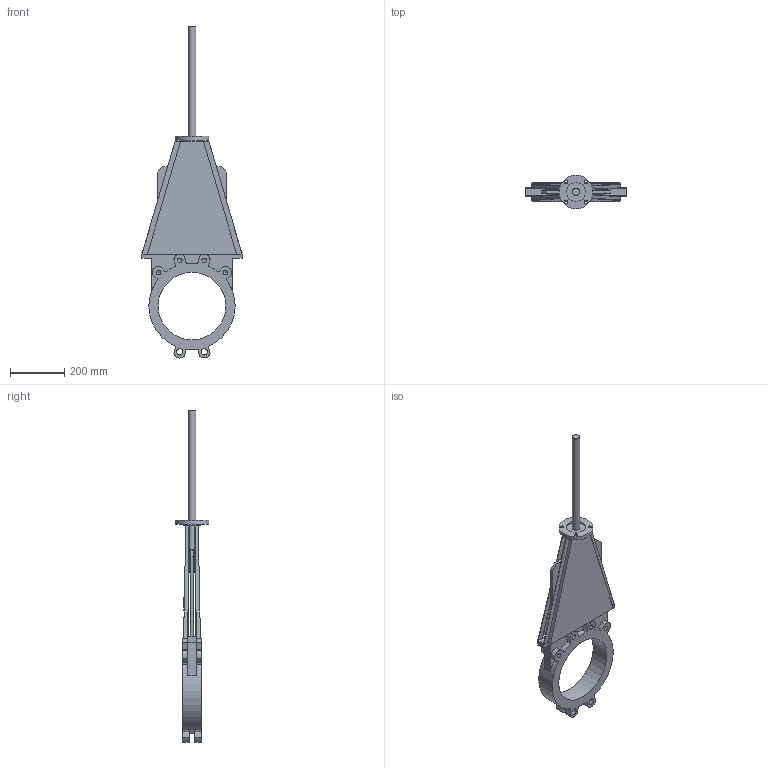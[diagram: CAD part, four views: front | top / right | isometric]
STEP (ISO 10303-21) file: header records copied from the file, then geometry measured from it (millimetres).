
FILE_DESCRIPTION(('STEP AP203'), '1');
FILE_NAME('K51GVA_DN250', '', ('UNSPECIFIED'), ('UNSPECIFIED'), 'ASCON STEP Converter 1.6', 'ASCON Math Kernel', '');
FILE_SCHEMA(('CONFIG_CONTROL_DESIGN'));
Length unit declared in the file: millimetre
Bounding box: 370 x 125 x 1226.55 mm (x, y, z)
Volume: 4838401.2 mm3; surface area: 988200.6 mm2
Topology: 1 solids, 1 shells, 197 faces, 548 edges, 353 vertices
Faces by surface type: plane 116, cylinder 72, cone 9
Full cylindrical faces by diameter (mm): 12 x4, 17.294 x8, 23 x4, 28 x2, 60 x1, 70 x1, 125 x1, 250 x1
Entity records: 7800 total; most frequent: CARTESIAN_POINT 1116, DIRECTION 1078, ORIENTED_EDGE 1018, EDGE_CURVE 509, AXIS2_PLACEMENT_3D 375, VERTEX_POINT 345, LINE 328, VECTOR 328
